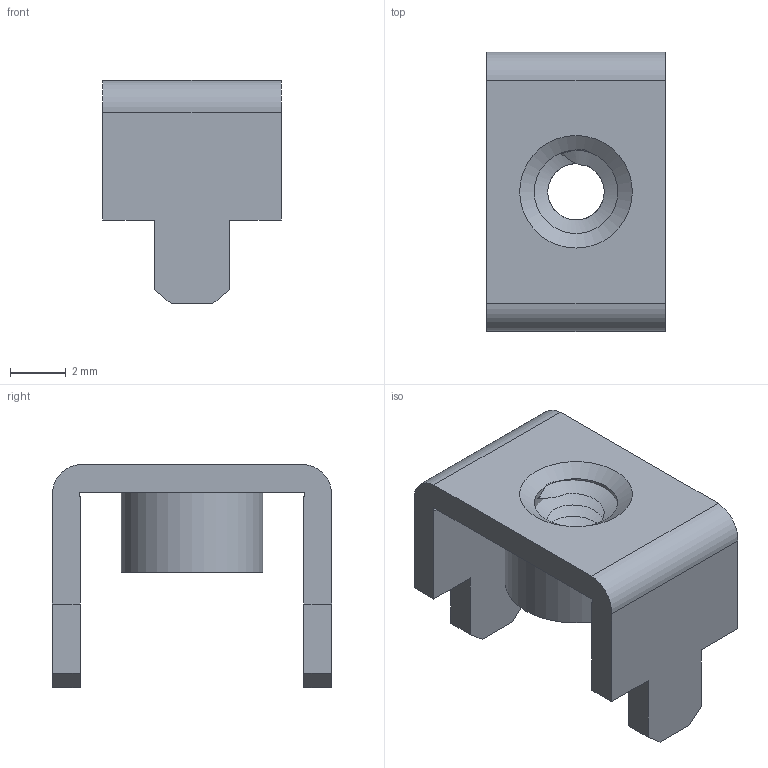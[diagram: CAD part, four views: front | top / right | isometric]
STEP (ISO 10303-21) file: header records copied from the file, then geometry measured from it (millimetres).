
FILE_DESCRIPTION(('FreeCAD Model'),'2;1');
FILE_NAME('Open CASCADE Shape Model','2026-07-27T22:25:41',('FreeCAD'),( 'FreeCAD'),'Open CASCADE STEP processor 7.9','FreeCAD','Unknown');
FILE_SCHEMA(('AUTOMOTIVE_DESIGN { 1 0 10303 214 1 1 1 1 }'));
Length unit declared in the file: millimetre
Products named in the file (1): Open CASCADE STEP translator 7.9 1
Bounding box: 6.4 x 10.01 x 8 mm (x, y, z)
Volume: 169.1 mm3; surface area: 490.9 mm2
Topology: 2 solids, 2 shells, 35 faces, 95 edges, 57 vertices
Faces by surface type: plane 23, bspline 12
Entity records: 2239 total; most frequent: CARTESIAN_POINT 1408, ORIENTED_EDGE 174, DIRECTION 134, EDGE_CURVE 87, VERTEX_POINT 57, LINE 56, VECTOR 56, AXIS2_PLACEMENT_3D 39
